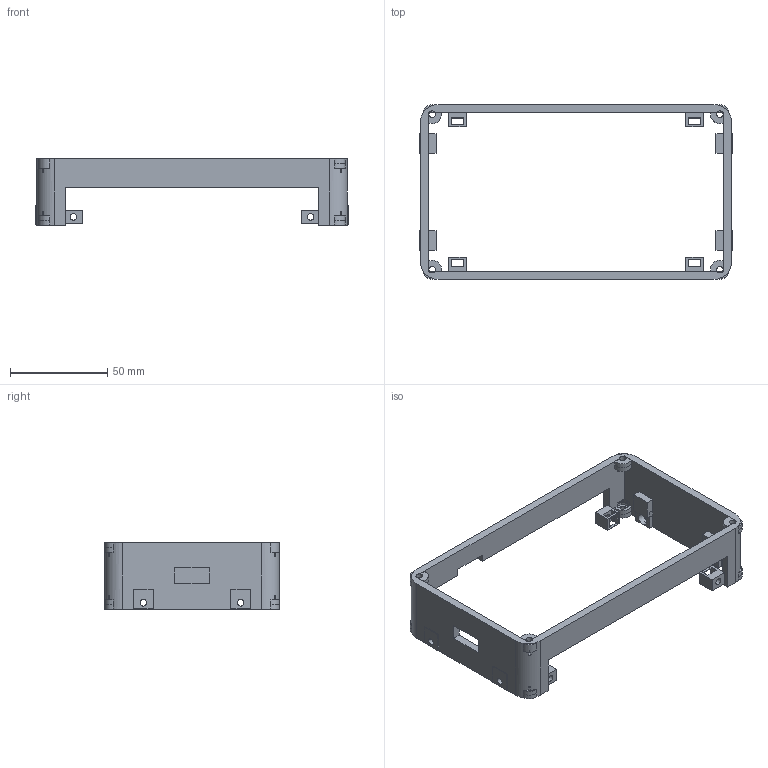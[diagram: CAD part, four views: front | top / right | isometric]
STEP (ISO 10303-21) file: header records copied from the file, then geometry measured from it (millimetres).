
FILE_DESCRIPTION(('Open CASCADE Model'),'2;1');
FILE_NAME('Open CASCADE Shape Model','2026-09-09T23:33:14',('Author'),( 'Open CASCADE'),'Open CASCADE STEP processor 7.9','Open CASCADE 7.9' ,'Unknown');
FILE_SCHEMA(('AUTOMOTIVE_DESIGN { 1 0 10303 214 1 1 1 1 }'));
Length unit declared in the file: millimetre
Products named in the file (1): Open CASCADE STEP translator 7.9 1
Bounding box: 161 x 90 x 34.2 mm (x, y, z)
Volume: 46482.6 mm3; surface area: 30768.5 mm2
Topology: 1 solids, 1 shells, 425 faces, 1245 edges, 819 vertices
Faces by surface type: plane 357, cylinder 68
Full cylindrical faces by diameter (mm): 3.4 x24, 5.7 x4
Entity records: 29378 total; most frequent: CARTESIAN_POINT 6155, DIRECTION 3743, ORIENTED_EDGE 2490, PCURVE 2490, DEFINITIONAL_REPRESENTATION 2490, LINE 2461, VECTOR 2461, EDGE_CURVE 1245
